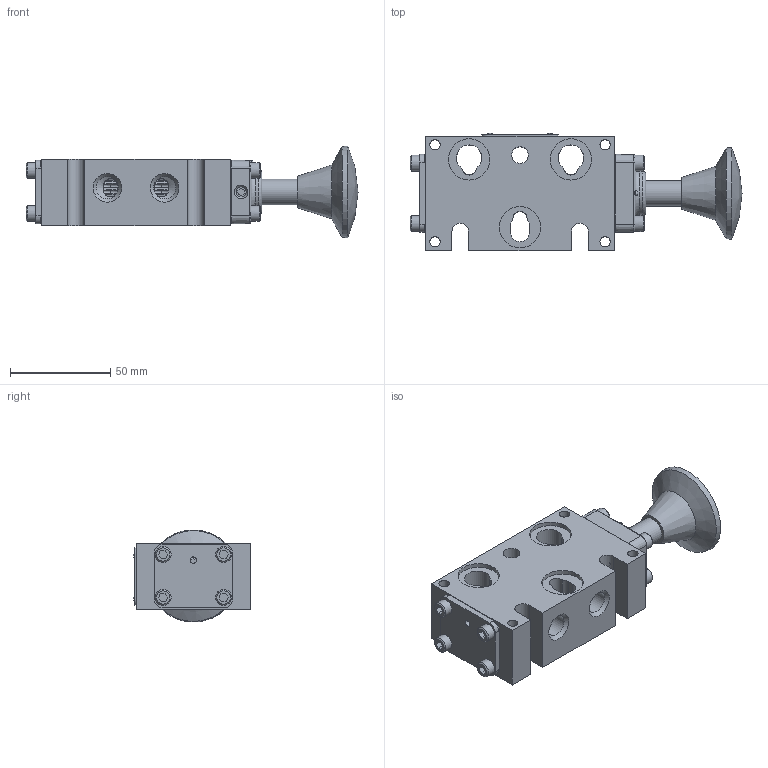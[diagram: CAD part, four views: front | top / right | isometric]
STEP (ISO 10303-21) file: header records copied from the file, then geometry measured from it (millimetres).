
FILE_DESCRIPTION(/* description */ (''),/* implementation_level */ '2;1');
FILE_NAME(/* name */ 'D:\Website Files\stp\Valves\Palm\KD\BKD2J.stp',/* time_stamp */ '2015-05-08T08:50:21-04:00',/* author */ ('RMcKenna'),/* organization */ (''),/* preprocessor_version */ 'ST-DEVELOPER v15.6',/* originating_system */ 'Autodesk Inventor 2015',/* authorisation */ '');
FILE_SCHEMA (('AUTOMOTIVE_DESIGN { 1 0 10303 214 3 1 1 }'));
Length unit declared in the file: centimetre
Products named in the file (1): Part12
Bounding box: 165.72 x 58.5 x 45.92 mm (x, y, z)
Volume: 172316.3 mm3; surface area: 60650.4 mm2
Topology: 2 solids, 28 shells, 894 faces, 2089 edges, 1318 vertices
Faces by surface type: plane 352, cone 233, cylinder 181, torus 92, bspline 32, sphere 4
Full cylindrical faces by diameter (mm): 2.07 x2, 2.261 x2, 2.778 x2, 3.048 x2, 3.175 x3, 3.683 x8, 4.826 x8, 4.978 x1, 5.156 x12, 6.401 x2, 7.938 x8, 8.153 x1, 8.334 x1, 9.922 x1, 10.973 x2, 11.113 x2, 11.303 x2, 12.7 x4, 18.618 x1, 18.745 x12, 19.812 x2, 20.625 x3, 22.327 x1, 23.825 x6
Entity records: 27323 total; most frequent: CARTESIAN_POINT 7464, DIRECTION 3962, ORIENTED_EDGE 3640, EDGE_CURVE 1820, AXIS2_PLACEMENT_3D 1602, VERTEX_POINT 1240, EDGE_LOOP 1204, FACE_OUTER_BOUND 894
